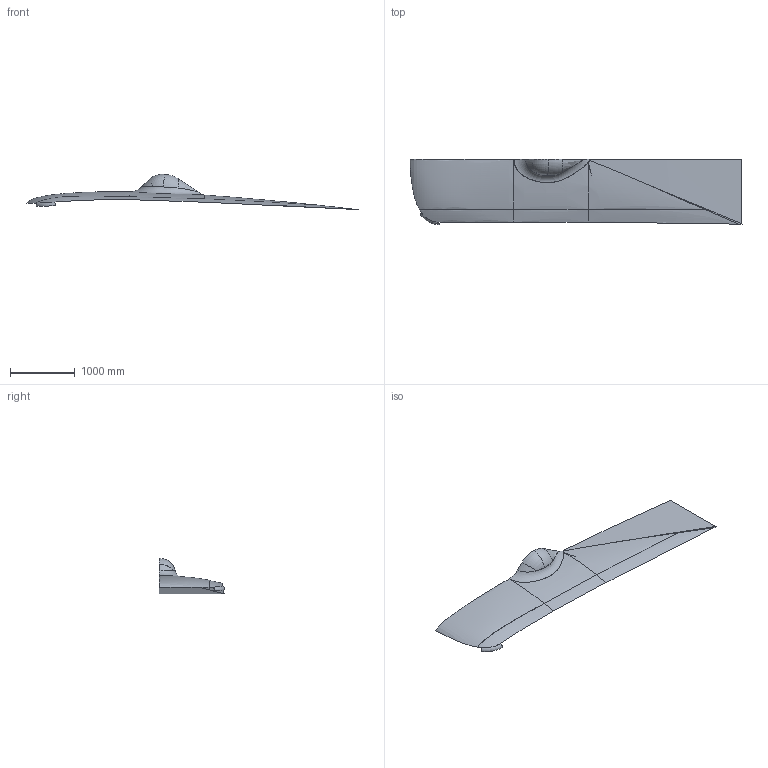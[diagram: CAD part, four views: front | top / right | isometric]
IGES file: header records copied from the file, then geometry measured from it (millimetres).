
Start section:  PTC IGES file: apollonofairing.igs
Global section: file name: apollonofairing.igs; native system: Pro/ENGINEER by Parametric Technology Corporation; preprocessor: 1999500; author: hammack; organization: Unknown; date: 001207.172950; units: inch
Bounding box: 5131.21 x 1005.39 x 546 mm (x, y, z)
Surface area: 5130724.1 mm2 (no closed solid volume)
Topology: 0 solids, 0 shells, 15 faces, 66 edges, 71 vertices
Faces by surface type: bspline 15
